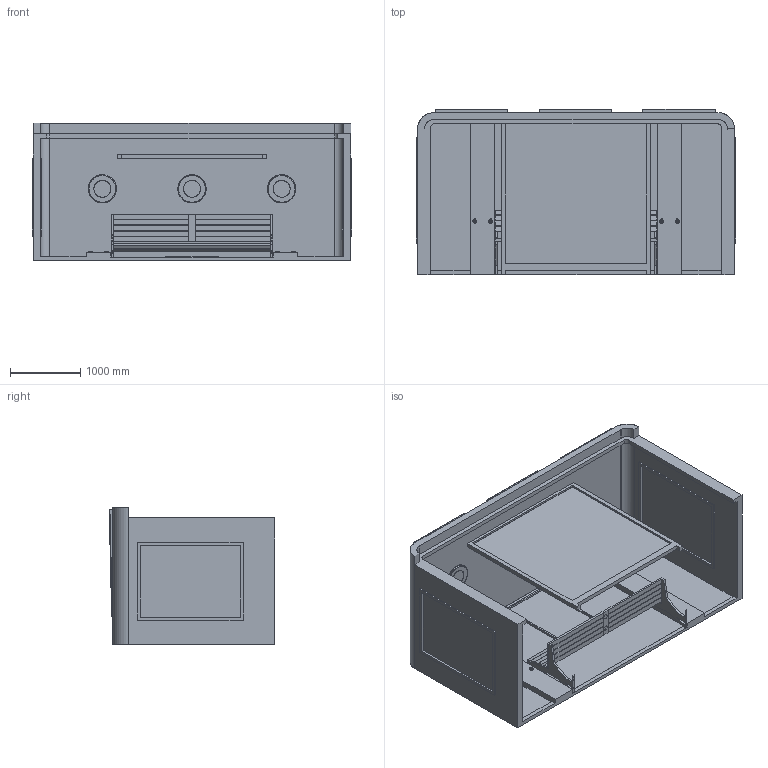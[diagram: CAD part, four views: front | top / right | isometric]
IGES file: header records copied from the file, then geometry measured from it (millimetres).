
Start section: SolidWorks IGES file using analytic representation for surfaces
Global section: file name: I:\(H)\3-(F) ALL MODEL 3D-PRICES\1-ALL MODEL 3D\5-WYS BUS SHELTER\WYS1826A\WYS1826A\WYS1826A.IGS; native system: SolidWorks 2025; preprocessor: SolidWorks 2025; author: User; date: 251006.110806; units: millimetre
Bounding box: 4540 x 2349.98 x 1950 mm (x, y, z)
Surface area: 103749267 mm2 (no closed solid volume)
Topology: 0 solids, 0 shells, 6115 faces, 42342 edges, 42333 vertices
Faces by surface type: bspline 5831, revolution 284
